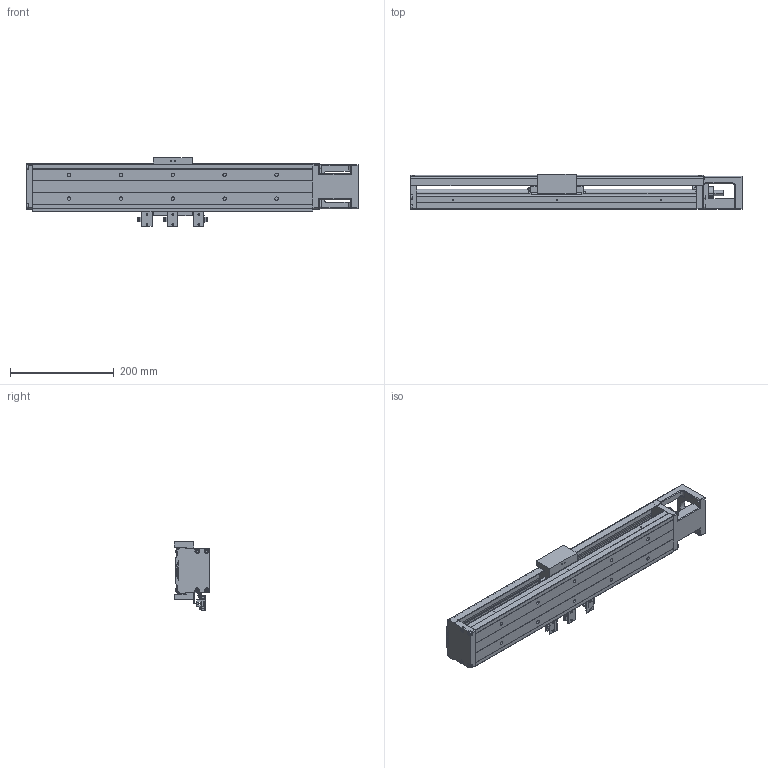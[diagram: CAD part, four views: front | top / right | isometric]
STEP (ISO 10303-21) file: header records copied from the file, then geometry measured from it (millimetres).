
FILE_DESCRIPTION (( 'STEP AP203' ), '1' );
FILE_NAME ('HKK86D20C-540A1-F0CS1.stp', '2021-11-29T07:52:39', ( '' ), ( '' ), 'SwSTEP 2.0', 'SolidWorks 2018', '' );
FILE_SCHEMA (( 'CONFIG_CONTROL_DESIGN' ));
Length unit declared in the file: millimetre
Products named in the file (1): HKK86D20C-540A1-F0CS1
Bounding box: 640 x 68 x 132.5 mm (x, y, z)
Volume: 1645060.7 mm3; surface area: 450826.7 mm2
Topology: 6 solids, 21 shells, 1428 faces, 3559 edges, 2244 vertices
Faces by surface type: plane 798, cylinder 447, cone 134, torus 32, sphere 9, bspline 8
Entity records: 42533 total; most frequent: CARTESIAN_POINT 8488, DIRECTION 7051, ORIENTED_EDGE 6994, EDGE_CURVE 3497, VECTOR 2351, LINE 2351, AXIS2_PLACEMENT_3D 2350, VERTEX_POINT 2240
